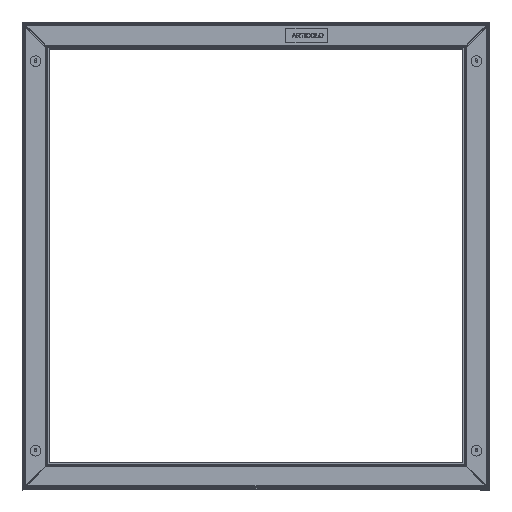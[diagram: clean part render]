
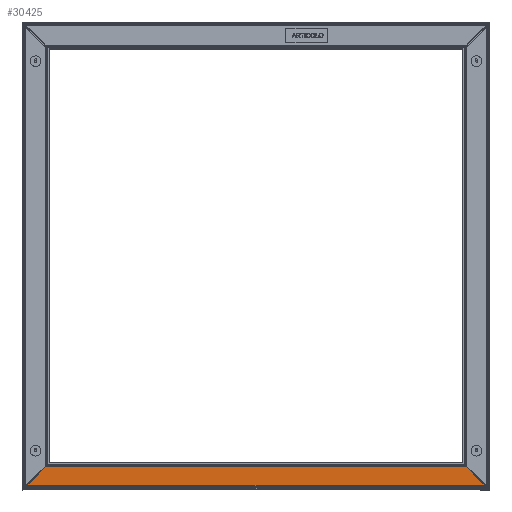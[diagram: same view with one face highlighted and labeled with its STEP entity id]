
A CAD part, top view. The second image highlights one B-rep face of the part: STEP entity #30425.
In plain terms, the highlighted planar face has unit normal (0, 0, 1).
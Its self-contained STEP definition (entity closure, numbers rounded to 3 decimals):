
#1587=LINE('',#46081,#4855);
#1588=LINE('',#46084,#4856);
#1589=LINE('',#46086,#4857);
#1590=LINE('',#46088,#4858);
#4855=VECTOR('',#35863,1000.);
#4856=VECTOR('',#35864,1000.);
#4857=VECTOR('',#35865,1000.);
#4858=VECTOR('',#35866,1000.);
#8097=PLANE('',#32349);
#9885=ORIENTED_EDGE('',*,*,#18809,.F.);
#9886=ORIENTED_EDGE('',*,*,#18810,.F.);
#9887=ORIENTED_EDGE('',*,*,#18811,.T.);
#9888=ORIENTED_EDGE('',*,*,#18812,.T.);
#18809=EDGE_CURVE('',#23357,#23358,#1587,.T.);
#18810=EDGE_CURVE('',#23359,#23357,#1588,.T.);
#18811=EDGE_CURVE('',#23359,#23360,#1589,.T.);
#18812=EDGE_CURVE('',#23360,#23358,#1590,.T.);
#23357=VERTEX_POINT('',#46082);
#23358=VERTEX_POINT('',#46083);
#23359=VERTEX_POINT('',#46085);
#23360=VERTEX_POINT('',#46087);
#26435=EDGE_LOOP('',(#9885,#9886,#9887,#9888));
#28105=FACE_BOUND('',#26435,.T.);
#30425=ADVANCED_FACE('',(#28105),#8097,.T.);
#32349=AXIS2_PLACEMENT_3D('',#46080,#35861,#35862);
#35861=DIRECTION('',(0.,0.,1.));
#35862=DIRECTION('',(0.,-1.,0.));
#35863=DIRECTION('',(0.707,-0.707,0.));
#35864=DIRECTION('',(1.,0.,0.));
#35865=DIRECTION('',(-0.707,-0.707,0.));
#35866=DIRECTION('',(1.,0.,0.));
#46080=CARTESIAN_POINT('',(-635.,-324.95,33.));
#46081=CARTESIAN_POINT('',(16.,-325.25,33.));
#46082=CARTESIAN_POINT('',(-16.2,-293.05,33.));
#46083=CARTESIAN_POINT('',(15.7,-324.95,33.));
#46084=CARTESIAN_POINT('',(-635.,-293.05,33.));
#46085=CARTESIAN_POINT('',(-602.8,-293.05,33.));
#46086=CARTESIAN_POINT('',(-602.5,-292.75,33.));
#46087=CARTESIAN_POINT('',(-634.7,-324.95,33.));
#46088=CARTESIAN_POINT('',(-635.,-324.95,33.));
